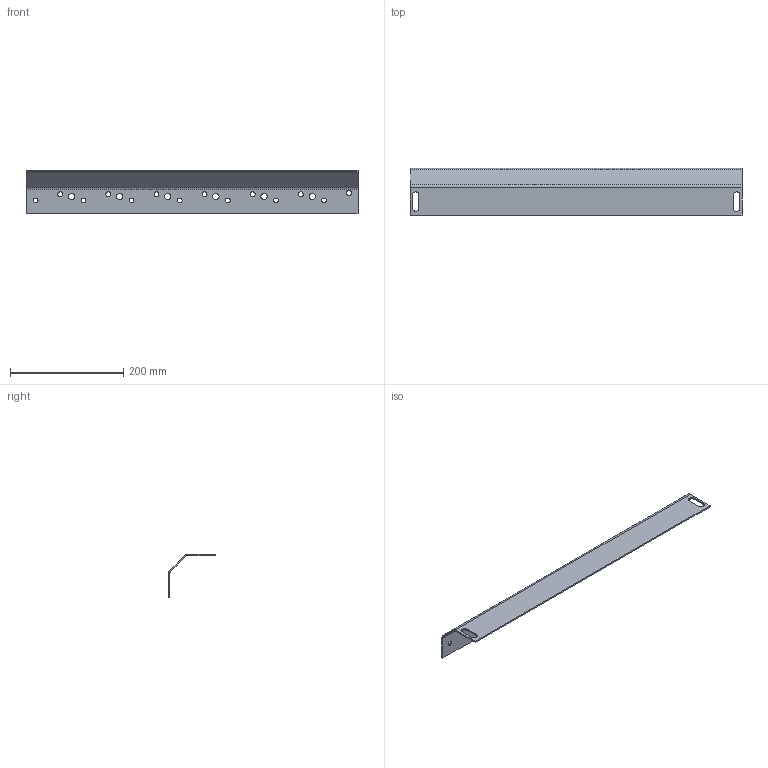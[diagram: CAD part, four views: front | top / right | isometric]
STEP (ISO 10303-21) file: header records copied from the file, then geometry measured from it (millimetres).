
FILE_DESCRIPTION (( 'STEP AP214' ), '1' );
FILE_NAME ('Blech 6-3.STEP', '2026-07-22T13:29:57', ( '' ), ( '' ), 'SwSTEP 2.0', 'SolidWorks 2023', '' );
FILE_SCHEMA (( 'AUTOMOTIVE_DESIGN' ));
Length unit declared in the file: millimetre
Products named in the file (1): Blech 6-3
Bounding box: 586.5 x 83.28 x 76.82 mm (x, y, z)
Volume: 199232.9 mm3; surface area: 164879.8 mm2
Topology: 1 solids, 1 shells, 70 faces, 188 edges, 120 vertices
Faces by surface type: cylinder 48, plane 22
Entity records: 2331 total; most frequent: DIRECTION 426, CARTESIAN_POINT 379, ORIENTED_EDGE 376, EDGE_CURVE 188, AXIS2_PLACEMENT_3D 167, VERTEX_POINT 120, EDGE_LOOP 114, CIRCLE 96
